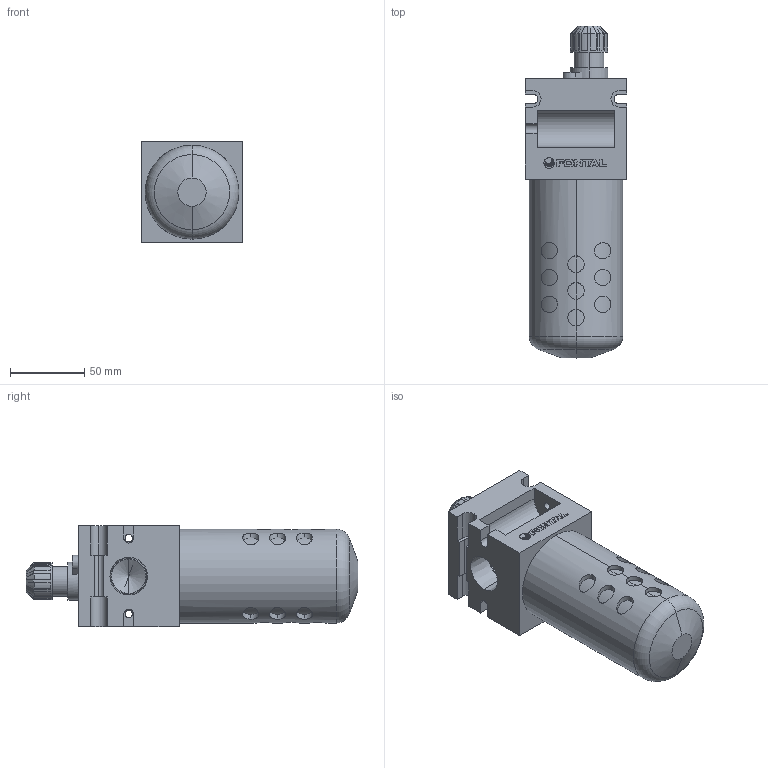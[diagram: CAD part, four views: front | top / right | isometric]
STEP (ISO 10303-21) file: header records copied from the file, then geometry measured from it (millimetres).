
FILE_DESCRIPTION (( 'STEP AP203' ), '1' );
FILE_NAME ('L105-06#.STEP', '2016-02-03T07:12:48', ( 'Toshiba' ), ( 'Toshiba' ), 'SwSTEP 2.0', 'SolidWorks 2014', '' );
FILE_SCHEMA (( 'CONFIG_CONTROL_DESIGN' ));
Length unit declared in the file: millimetre
Products named in the file (8): F105-06; L45-1; L105-06#; F105-2; L45-2; L508-5; F105=06; F105-MARK
Assembly tree (7 placements, depth 3):
  L105-06#
    F105=06
      F105-06
      F105-2
      F105-MARK
    L45-2
    L508-5
    L45-1
Bounding box: 68 x 223 x 68.2 mm (x, y, z)
Volume: 595625.5 mm3; surface area: 75068.3 mm2
Topology: 12 solids, 12 shells, 351 faces, 922 edges, 610 vertices
Faces by surface type: plane 191, cylinder 128, cone 22, bspline 8, torus 2
Entity records: 14388 total; most frequent: CARTESIAN_POINT 5006, ORIENTED_EDGE 1836, DIRECTION 1662, EDGE_CURVE 918, VERTEX_POINT 610, VECTOR 594, LINE 594, AXIS2_PLACEMENT_3D 534
